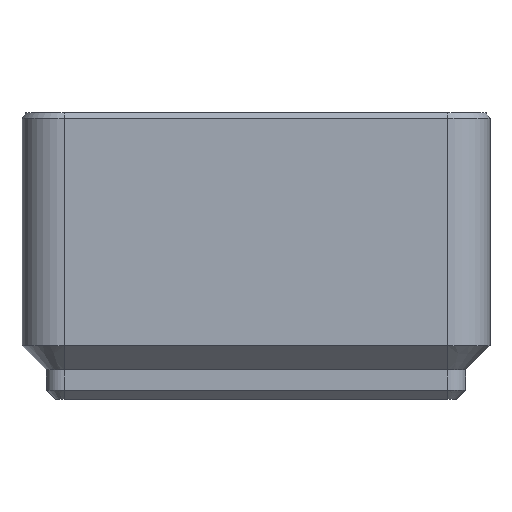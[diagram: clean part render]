
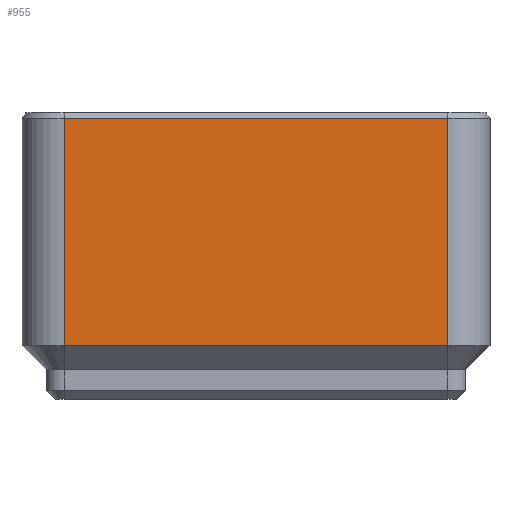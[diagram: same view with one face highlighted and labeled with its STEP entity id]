
A CAD part, left-side view. The second image highlights one B-rep face of the part: STEP entity #955.
In plain terms, the highlighted planar face has unit normal (-1, 0, 0).
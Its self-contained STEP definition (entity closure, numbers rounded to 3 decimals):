
#72 = PLANE('',#73);
#73 = AXIS2_PLACEMENT_3D('',#74,#75,#76);
#74 = CARTESIAN_POINT('',(-41.75,0.,4.75));
#75 = DIRECTION('',(-0.707,0.,-0.707));
#76 = DIRECTION('',(0.,-1.,-0.));
#387 = VERTEX_POINT('',#388);
#388 = CARTESIAN_POINT('',(-41.75,-17.,4.75));
#406 = EDGE_CURVE('',#387,#407,#409,.T.);
#407 = VERTEX_POINT('',#408);
#408 = CARTESIAN_POINT('',(-41.75,17.,4.75));
#409 = SURFACE_CURVE('',#410,(#414,#421),.PCURVE_S1.);
#410 = LINE('',#411,#412);
#411 = CARTESIAN_POINT('',(-41.75,0.,4.75));
#412 = VECTOR('',#413,1.);
#413 = DIRECTION('',(0.,1.,0.));
#414 = PCURVE('',#72,#415);
#415 = DEFINITIONAL_REPRESENTATION('',(#416),#420);
#416 = LINE('',#417,#418);
#417 = CARTESIAN_POINT('',(0.,0.));
#418 = VECTOR('',#419,1.);
#419 = DIRECTION('',(-1.,0.));
#420 = ( GEOMETRIC_REPRESENTATION_CONTEXT(2) 
PARAMETRIC_REPRESENTATION_CONTEXT() REPRESENTATION_CONTEXT('2D SPACE',''
  ) );
#421 = PCURVE('',#422,#427);
#422 = PLANE('',#423);
#423 = AXIS2_PLACEMENT_3D('',#424,#425,#426);
#424 = CARTESIAN_POINT('',(-41.75,-17.,4.75));
#425 = DIRECTION('',(-1.,0.,0.));
#426 = DIRECTION('',(0.,1.,0.));
#427 = DEFINITIONAL_REPRESENTATION('',(#428),#432);
#428 = LINE('',#429,#430);
#429 = CARTESIAN_POINT('',(17.,0.));
#430 = VECTOR('',#431,1.);
#431 = DIRECTION('',(1.,0.));
#432 = ( GEOMETRIC_REPRESENTATION_CONTEXT(2) 
PARAMETRIC_REPRESENTATION_CONTEXT() REPRESENTATION_CONTEXT('2D SPACE',''
  ) );
#624 = CYLINDRICAL_SURFACE('',#625,3.75);
#625 = AXIS2_PLACEMENT_3D('',#626,#627,#628);
#626 = CARTESIAN_POINT('',(-38.,-17.,4.75));
#627 = DIRECTION('',(-0.,-0.,-1.));
#628 = DIRECTION('',(1.,0.,0.));
#791 = CYLINDRICAL_SURFACE('',#792,3.75);
#792 = AXIS2_PLACEMENT_3D('',#793,#794,#795);
#793 = CARTESIAN_POINT('',(-38.,17.,4.75));
#794 = DIRECTION('',(-0.,-0.,-1.));
#795 = DIRECTION('',(1.,0.,0.));
#955 = ADVANCED_FACE('',(#956),#422,.T.);
#956 = FACE_BOUND('',#957,.T.);
#957 = EDGE_LOOP('',(#958,#981,#1009,#1030));
#958 = ORIENTED_EDGE('',*,*,#959,.T.);
#959 = EDGE_CURVE('',#387,#960,#962,.T.);
#960 = VERTEX_POINT('',#961);
#961 = CARTESIAN_POINT('',(-41.75,-17.,24.9));
#962 = SURFACE_CURVE('',#963,(#967,#974),.PCURVE_S1.);
#963 = LINE('',#964,#965);
#964 = CARTESIAN_POINT('',(-41.75,-17.,4.75));
#965 = VECTOR('',#966,1.);
#966 = DIRECTION('',(0.,0.,1.));
#967 = PCURVE('',#422,#968);
#968 = DEFINITIONAL_REPRESENTATION('',(#969),#973);
#969 = LINE('',#970,#971);
#970 = CARTESIAN_POINT('',(0.,0.));
#971 = VECTOR('',#972,1.);
#972 = DIRECTION('',(0.,-1.));
#973 = ( GEOMETRIC_REPRESENTATION_CONTEXT(2) 
PARAMETRIC_REPRESENTATION_CONTEXT() REPRESENTATION_CONTEXT('2D SPACE',''
  ) );
#974 = PCURVE('',#624,#975);
#975 = DEFINITIONAL_REPRESENTATION('',(#976),#980);
#976 = LINE('',#977,#978);
#977 = CARTESIAN_POINT('',(-3.142,0.));
#978 = VECTOR('',#979,1.);
#979 = DIRECTION('',(-0.,-1.));
#980 = ( GEOMETRIC_REPRESENTATION_CONTEXT(2) 
PARAMETRIC_REPRESENTATION_CONTEXT() REPRESENTATION_CONTEXT('2D SPACE',''
  ) );
#981 = ORIENTED_EDGE('',*,*,#982,.T.);
#982 = EDGE_CURVE('',#960,#983,#985,.T.);
#983 = VERTEX_POINT('',#984);
#984 = CARTESIAN_POINT('',(-41.75,17.,24.9));
#985 = SURFACE_CURVE('',#986,(#990,#997),.PCURVE_S1.);
#986 = LINE('',#987,#988);
#987 = CARTESIAN_POINT('',(-41.75,0.,24.9));
#988 = VECTOR('',#989,1.);
#989 = DIRECTION('',(0.,1.,0.));
#990 = PCURVE('',#422,#991);
#991 = DEFINITIONAL_REPRESENTATION('',(#992),#996);
#992 = LINE('',#993,#994);
#993 = CARTESIAN_POINT('',(17.,-20.15));
#994 = VECTOR('',#995,1.);
#995 = DIRECTION('',(1.,0.));
#996 = ( GEOMETRIC_REPRESENTATION_CONTEXT(2) 
PARAMETRIC_REPRESENTATION_CONTEXT() REPRESENTATION_CONTEXT('2D SPACE',''
  ) );
#997 = PCURVE('',#998,#1003);
#998 = PLANE('',#999);
#999 = AXIS2_PLACEMENT_3D('',#1000,#1001,#1002);
#1000 = CARTESIAN_POINT('',(-41.4,0.,25.4));
#1001 = DIRECTION('',(-0.819,0.,0.573));
#1002 = DIRECTION('',(-0.,-1.,0.));
#1003 = DEFINITIONAL_REPRESENTATION('',(#1004),#1008);
#1004 = LINE('',#1005,#1006);
#1005 = CARTESIAN_POINT('',(0.,-0.61));
#1006 = VECTOR('',#1007,1.);
#1007 = DIRECTION('',(-1.,0.));
#1008 = ( GEOMETRIC_REPRESENTATION_CONTEXT(2) 
PARAMETRIC_REPRESENTATION_CONTEXT() REPRESENTATION_CONTEXT('2D SPACE',''
  ) );
#1009 = ORIENTED_EDGE('',*,*,#1010,.F.);
#1010 = EDGE_CURVE('',#407,#983,#1011,.T.);
#1011 = SURFACE_CURVE('',#1012,(#1016,#1023),.PCURVE_S1.);
#1012 = LINE('',#1013,#1014);
#1013 = CARTESIAN_POINT('',(-41.75,17.,4.75));
#1014 = VECTOR('',#1015,1.);
#1015 = DIRECTION('',(0.,0.,1.));
#1016 = PCURVE('',#422,#1017);
#1017 = DEFINITIONAL_REPRESENTATION('',(#1018),#1022);
#1018 = LINE('',#1019,#1020);
#1019 = CARTESIAN_POINT('',(34.,0.));
#1020 = VECTOR('',#1021,1.);
#1021 = DIRECTION('',(0.,-1.));
#1022 = ( GEOMETRIC_REPRESENTATION_CONTEXT(2) 
PARAMETRIC_REPRESENTATION_CONTEXT() REPRESENTATION_CONTEXT('2D SPACE',''
  ) );
#1023 = PCURVE('',#791,#1024);
#1024 = DEFINITIONAL_REPRESENTATION('',(#1025),#1029);
#1025 = LINE('',#1026,#1027);
#1026 = CARTESIAN_POINT('',(-3.142,0.));
#1027 = VECTOR('',#1028,1.);
#1028 = DIRECTION('',(-0.,-1.));
#1029 = ( GEOMETRIC_REPRESENTATION_CONTEXT(2) 
PARAMETRIC_REPRESENTATION_CONTEXT() REPRESENTATION_CONTEXT('2D SPACE',''
  ) );
#1030 = ORIENTED_EDGE('',*,*,#406,.F.);
